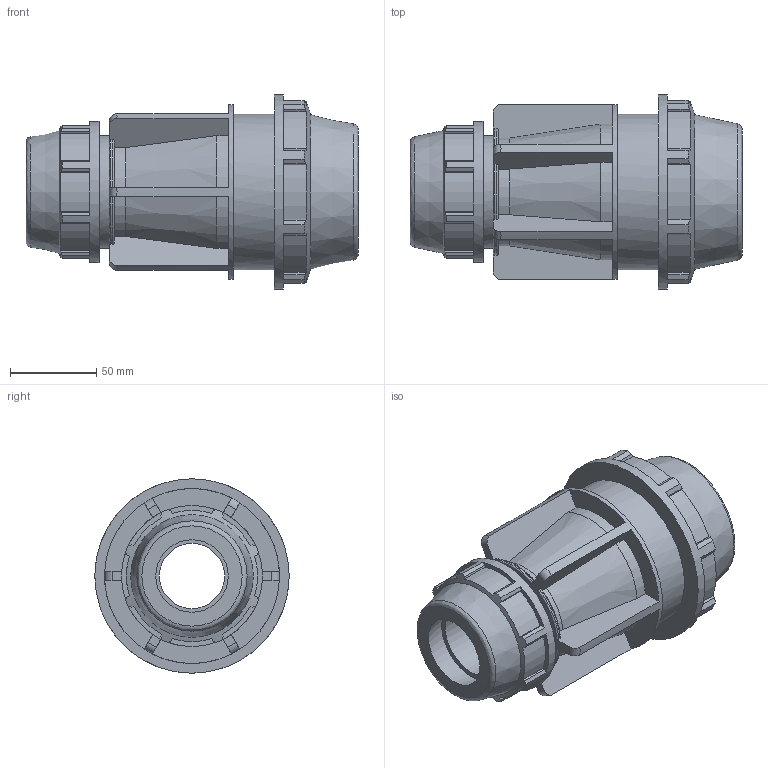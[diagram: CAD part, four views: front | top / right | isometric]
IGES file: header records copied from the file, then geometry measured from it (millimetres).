
Global section: file name: 0711M0020013.ipt; native system: Autodesk Inventor 2019; preprocessor: unknown; author: KIM; date: 20210826.124712; units: inch
Bounding box: 193 x 113.03 x 113.03 mm (x, y, z)
Volume: 621171.9 mm3; surface area: 115526.9 mm2
Topology: 1 solids, 1 shells, 213 faces, 624 edges, 421 vertices
Faces by surface type: plane 138, cylinder 45, revolution 20, cone 10
Full cylindrical faces by diameter (mm): 65.634 x1, 82.042 x1, 90.424 x1, 101.727 x1, 113.03 x1
